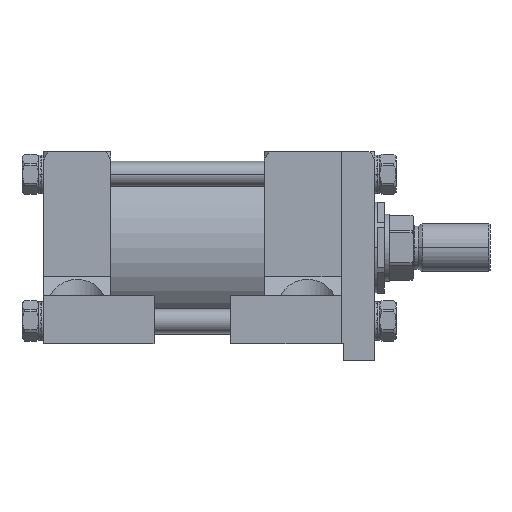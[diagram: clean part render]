
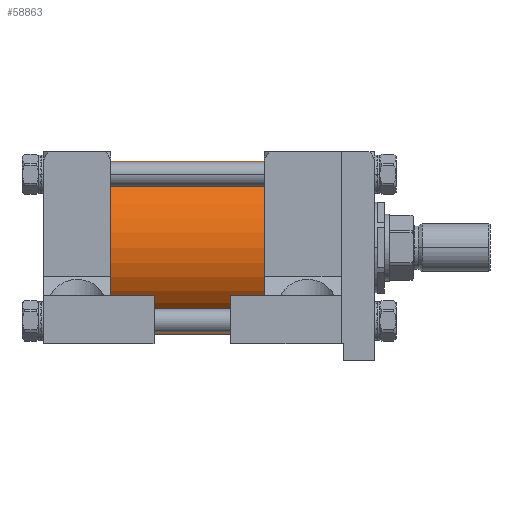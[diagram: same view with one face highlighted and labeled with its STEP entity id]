
A CAD part, front view. The second image highlights one B-rep face of the part: STEP entity #58863.
In plain terms, the highlighted cylindrical face has radius 57.15 mm (diameter 114.3 mm), a partial arc.
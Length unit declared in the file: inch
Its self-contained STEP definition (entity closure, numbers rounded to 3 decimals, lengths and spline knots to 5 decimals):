
#196 = ORIENTED_EDGE ( 'NONE', *, *, #6877, .F. ) ;
#4193 = CIRCLE ( 'NONE', #43046, 2.25 ) ;
#4376 = CARTESIAN_POINT ( 'NONE',  ( -8.125, 0., 0. ) ) ;
#4424 = ORIENTED_EDGE ( 'NONE', *, *, #6680, .T. ) ;
#4538 = DIRECTION ( 'NONE',  ( 0., 0., -1. ) ) ;
#5954 = VERTEX_POINT ( 'NONE', #39023 ) ;
#6680 = EDGE_CURVE ( 'NONE', #58525, #5954, #54558, .T. ) ;
#6877 = EDGE_CURVE ( 'NONE', #25170, #27380, #8305, .T. ) ;
#8305 = LINE ( 'NONE', #41409, #55598 ) ;
#13322 = DIRECTION ( 'NONE',  ( 1., 0., 0. ) ) ;
#13638 = DIRECTION ( 'NONE',  ( 1., 0., 0. ) ) ;
#13963 = CYLINDRICAL_SURFACE ( 'NONE', #58117, 2.25 ) ;
#21703 = VECTOR ( 'NONE', #21820, 39.37008 ) ;
#21820 = DIRECTION ( 'NONE',  ( 1., 0., 0. ) ) ;
#25147 = EDGE_LOOP ( 'NONE', ( #196, #50654, #4424, #41264 ) ) ;
#25170 = VERTEX_POINT ( 'NONE', #58986 ) ;
#27136 = AXIS2_PLACEMENT_3D ( 'NONE', #4376, #56845, #61210 ) ;
#27380 = VERTEX_POINT ( 'NONE', #46249 ) ;
#32291 = CARTESIAN_POINT ( 'NONE',  ( -8.125, 0., -2.25 ) ) ;
#33162 = DIRECTION ( 'NONE',  ( 0., 1., 0. ) ) ;
#35088 = CIRCLE ( 'NONE', #27136, 2.25 ) ;
#36986 = EDGE_CURVE ( 'NONE', #27380, #5954, #4193, .T. ) ;
#37815 = DIRECTION ( 'NONE',  ( 1., 0., 0. ) ) ;
#39023 = CARTESIAN_POINT ( 'NONE',  ( -3.625, 0., -2.25 ) ) ;
#41264 = ORIENTED_EDGE ( 'NONE', *, *, #36986, .F. ) ;
#41409 = CARTESIAN_POINT ( 'NONE',  ( -8.125, 0., 2.25 ) ) ;
#43046 = AXIS2_PLACEMENT_3D ( 'NONE', #52479, #37815, #33162 ) ;
#46249 = CARTESIAN_POINT ( 'NONE',  ( -3.625, 0., 2.25 ) ) ;
#46957 = FACE_OUTER_BOUND ( 'NONE', #25147, .T. ) ;
#50138 = CARTESIAN_POINT ( 'NONE',  ( -8.125, 0., -2.25 ) ) ;
#50654 = ORIENTED_EDGE ( 'NONE', *, *, #57670, .T. ) ;
#52479 = CARTESIAN_POINT ( 'NONE',  ( -3.625, 0., 0. ) ) ;
#54558 = LINE ( 'NONE', #50138, #21703 ) ;
#55598 = VECTOR ( 'NONE', #13322, 39.37008 ) ;
#56392 = CARTESIAN_POINT ( 'NONE',  ( -8.125, 0., 0. ) ) ;
#56845 = DIRECTION ( 'NONE',  ( 1., 0., 0. ) ) ;
#57670 = EDGE_CURVE ( 'NONE', #25170, #58525, #35088, .T. ) ;
#58117 = AXIS2_PLACEMENT_3D ( 'NONE', #56392, #13638, #4538 ) ;
#58525 = VERTEX_POINT ( 'NONE', #32291 ) ;
#58863 = ADVANCED_FACE ( 'NONE', ( #46957 ), #13963, .T. ) ;
#58986 = CARTESIAN_POINT ( 'NONE',  ( -8.125, 0., 2.25 ) ) ;
#61210 = DIRECTION ( 'NONE',  ( 0., 1., 0. ) ) ;
